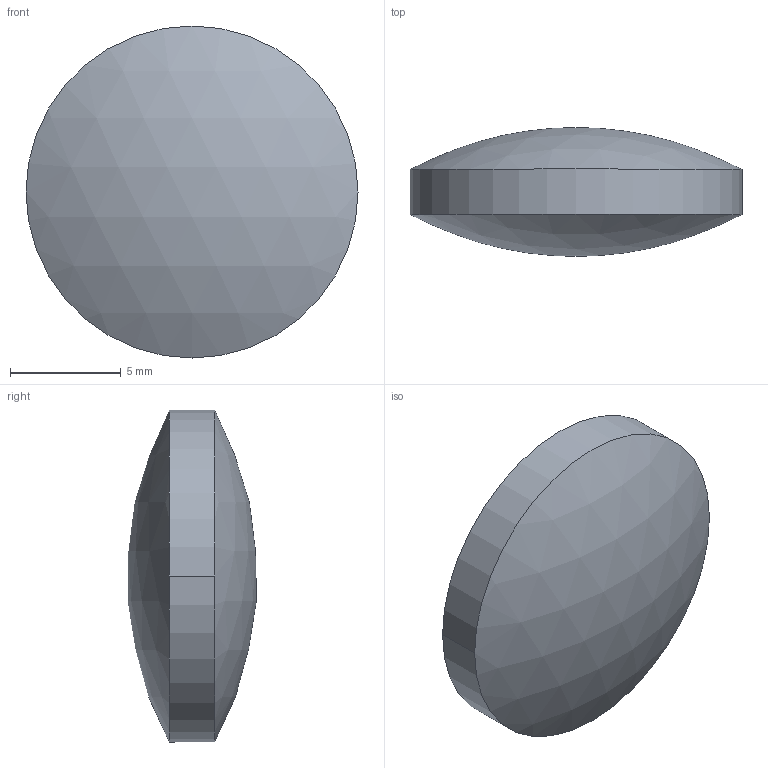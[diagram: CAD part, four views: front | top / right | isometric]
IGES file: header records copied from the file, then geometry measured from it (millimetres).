
Global section: file name: No Iges File Name specified; native system: AutoDesk Inventor R12.0; preprocessor: AutoDesk Inventor Iges Exporter R12.0; author: No Author specified; organization: No Organization specified; date: 20090513.140404; units: millimetre
Bounding box: 15 x 5.82 x 15 mm (x, y, z)
Volume: 709.8 mm3; surface area: 473.3 mm2
Topology: 1 solids, 1 shells, 4 faces, 6 edges, 4 vertices
Faces by surface type: cylinder 2, sphere 2
